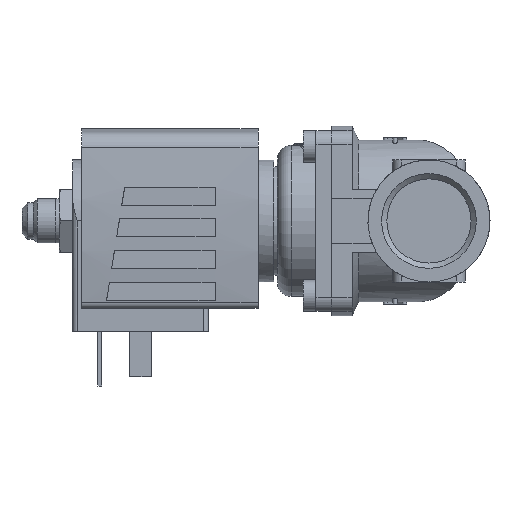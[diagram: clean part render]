
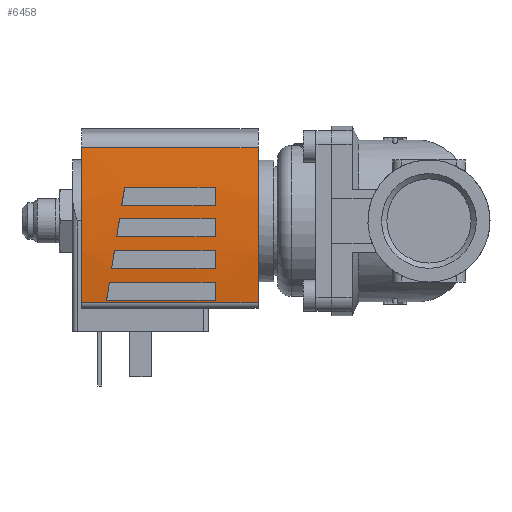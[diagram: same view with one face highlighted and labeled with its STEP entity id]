
A CAD part, left-side view. The second image highlights one B-rep face of the part: STEP entity #6458.
In plain terms, the highlighted cylindrical face has radius 130 mm (diameter 260 mm), a partial arc.
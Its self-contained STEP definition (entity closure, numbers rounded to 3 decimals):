
#160=ELLIPSE('',#7007,131.653,130.);
#161=ELLIPSE('',#7009,131.653,130.);
#162=ELLIPSE('',#7012,131.653,130.);
#163=ELLIPSE('',#7014,131.653,130.);
#715=LINE('',#10153,#1165);
#717=LINE('',#10173,#1167);
#718=LINE('',#10177,#1168);
#719=LINE('',#10178,#1169);
#720=LINE('',#10183,#1170);
#721=LINE('',#10188,#1171);
#722=LINE('',#10192,#1172);
#723=LINE('',#10196,#1173);
#724=LINE('',#10200,#1174);
#725=LINE('',#10204,#1175);
#1165=VECTOR('',#8332,1000.);
#1167=VECTOR('',#8354,1000.);
#1168=VECTOR('',#8357,1000.);
#1169=VECTOR('',#8358,1000.);
#1170=VECTOR('',#8361,1000.);
#1171=VECTOR('',#8366,1000.);
#1172=VECTOR('',#8369,1000.);
#1173=VECTOR('',#8372,1000.);
#1174=VECTOR('',#8375,1000.);
#1175=VECTOR('',#8378,1000.);
#2423=ORIENTED_EDGE('',*,*,#3411,.F.);
#2424=ORIENTED_EDGE('',*,*,#3412,.F.);
#2425=ORIENTED_EDGE('',*,*,#3413,.F.);
#2426=ORIENTED_EDGE('',*,*,#3414,.F.);
#2427=ORIENTED_EDGE('',*,*,#3415,.F.);
#2428=ORIENTED_EDGE('',*,*,#3416,.F.);
#2429=ORIENTED_EDGE('',*,*,#3417,.F.);
#2430=ORIENTED_EDGE('',*,*,#3418,.F.);
#2431=ORIENTED_EDGE('',*,*,#3419,.T.);
#2432=ORIENTED_EDGE('',*,*,#3420,.F.);
#2433=ORIENTED_EDGE('',*,*,#3405,.F.);
#2434=ORIENTED_EDGE('',*,*,#3402,.T.);
#2435=ORIENTED_EDGE('',*,*,#3421,.F.);
#2436=ORIENTED_EDGE('',*,*,#3422,.F.);
#2437=ORIENTED_EDGE('',*,*,#3423,.F.);
#2438=ORIENTED_EDGE('',*,*,#3424,.F.);
#2439=ORIENTED_EDGE('',*,*,#3425,.F.);
#2440=ORIENTED_EDGE('',*,*,#3426,.F.);
#2441=ORIENTED_EDGE('',*,*,#3427,.F.);
#2442=ORIENTED_EDGE('',*,*,#3428,.F.);
#3402=EDGE_CURVE('',#3984,#3983,#715,.T.);
#3405=EDGE_CURVE('',#3984,#3986,#4263,.T.);
#3411=EDGE_CURVE('',#3990,#3991,#160,.T.);
#3412=EDGE_CURVE('',#3992,#3990,#717,.F.);
#3413=EDGE_CURVE('',#3993,#3992,#4268,.T.);
#3414=EDGE_CURVE('',#3991,#3993,#718,.T.);
#3415=EDGE_CURVE('',#3994,#3995,#719,.T.);
#3416=EDGE_CURVE('',#3996,#3994,#161,.T.);
#3417=EDGE_CURVE('',#3997,#3996,#720,.F.);
#3418=EDGE_CURVE('',#3995,#3997,#4269,.T.);
#3419=EDGE_CURVE('',#3983,#3998,#4270,.T.);
#3420=EDGE_CURVE('',#3986,#3998,#721,.T.);
#3421=EDGE_CURVE('',#3999,#4000,#162,.T.);
#3422=EDGE_CURVE('',#4001,#3999,#722,.F.);
#3423=EDGE_CURVE('',#4002,#4001,#4271,.T.);
#3424=EDGE_CURVE('',#4000,#4002,#723,.T.);
#3425=EDGE_CURVE('',#4003,#4004,#163,.T.);
#3426=EDGE_CURVE('',#4005,#4003,#724,.F.);
#3427=EDGE_CURVE('',#4006,#4005,#4272,.T.);
#3428=EDGE_CURVE('',#4004,#4006,#725,.T.);
#3983=VERTEX_POINT('',#10152);
#3984=VERTEX_POINT('',#10154);
#3986=VERTEX_POINT('',#10160);
#3990=VERTEX_POINT('',#10171);
#3991=VERTEX_POINT('',#10172);
#3992=VERTEX_POINT('',#10174);
#3993=VERTEX_POINT('',#10176);
#3994=VERTEX_POINT('',#10179);
#3995=VERTEX_POINT('',#10180);
#3996=VERTEX_POINT('',#10182);
#3997=VERTEX_POINT('',#10184);
#3998=VERTEX_POINT('',#10187);
#3999=VERTEX_POINT('',#10190);
#4000=VERTEX_POINT('',#10191);
#4001=VERTEX_POINT('',#10193);
#4002=VERTEX_POINT('',#10195);
#4003=VERTEX_POINT('',#10198);
#4004=VERTEX_POINT('',#10199);
#4005=VERTEX_POINT('',#10201);
#4006=VERTEX_POINT('',#10203);
#4263=CIRCLE('',#7001,130.);
#4268=CIRCLE('',#7008,130.);
#4269=CIRCLE('',#7010,130.);
#4270=CIRCLE('',#7011,130.);
#4271=CIRCLE('',#7013,130.);
#4272=CIRCLE('',#7015,130.);
#4567=EDGE_LOOP('',(#2423,#2424,#2425,#2426));
#4568=EDGE_LOOP('',(#2427,#2428,#2429,#2430));
#4569=EDGE_LOOP('',(#2431,#2432,#2433,#2434));
#4570=EDGE_LOOP('',(#2435,#2436,#2437,#2438));
#4571=EDGE_LOOP('',(#2439,#2440,#2441,#2442));
#4947=FACE_BOUND('',#4567,.T.);
#4948=FACE_BOUND('',#4568,.T.);
#4949=FACE_BOUND('',#4569,.T.);
#4950=FACE_BOUND('',#4570,.T.);
#4951=FACE_BOUND('',#4571,.T.);
#5128=CYLINDRICAL_SURFACE('',#7006,130.);
#6458=ADVANCED_FACE('',(#4947,#4948,#4949,#4950,#4951),#5128,.T.);
#7001=AXIS2_PLACEMENT_3D('',#10159,#8339,#8340);
#7006=AXIS2_PLACEMENT_3D('',#10169,#8350,#8351);
#7007=AXIS2_PLACEMENT_3D('',#10170,#8352,#8353);
#7008=AXIS2_PLACEMENT_3D('',#10175,#8355,#8356);
#7009=AXIS2_PLACEMENT_3D('',#10181,#8359,#8360);
#7010=AXIS2_PLACEMENT_3D('',#10185,#8362,#8363);
#7011=AXIS2_PLACEMENT_3D('',#10186,#8364,#8365);
#7012=AXIS2_PLACEMENT_3D('',#10189,#8367,#8368);
#7013=AXIS2_PLACEMENT_3D('',#10194,#8370,#8371);
#7014=AXIS2_PLACEMENT_3D('',#10197,#8373,#8374);
#7015=AXIS2_PLACEMENT_3D('',#10202,#8376,#8377);
#8332=DIRECTION('',(0.,-1.,0.));
#8339=DIRECTION('',(0.,1.,0.));
#8340=DIRECTION('',(1.,0.,0.));
#8350=DIRECTION('',(0.,-1.,0.));
#8351=DIRECTION('',(0.,0.,-1.));
#8352=DIRECTION('',(-0.158,-0.987,0.));
#8353=DIRECTION('',(0.987,-0.158,0.));
#8354=DIRECTION('',(0.,-1.,0.));
#8355=DIRECTION('',(0.,1.,0.));
#8356=DIRECTION('',(0.,0.,1.));
#8357=DIRECTION('',(0.,-1.,0.));
#8358=DIRECTION('',(0.,-1.,0.));
#8359=DIRECTION('',(-0.158,-0.987,0.));
#8360=DIRECTION('',(0.987,-0.158,0.));
#8361=DIRECTION('',(0.,-1.,0.));
#8362=DIRECTION('',(0.,1.,0.));
#8363=DIRECTION('',(0.,0.,1.));
#8364=DIRECTION('',(0.,1.,0.));
#8365=DIRECTION('',(1.,0.,0.));
#8366=DIRECTION('',(0.,-1.,0.));
#8367=DIRECTION('',(-0.158,-0.987,0.));
#8368=DIRECTION('',(0.987,-0.158,0.));
#8369=DIRECTION('',(0.,-1.,0.));
#8370=DIRECTION('',(0.,1.,0.));
#8371=DIRECTION('',(0.,0.,1.));
#8372=DIRECTION('',(0.,-1.,0.));
#8373=DIRECTION('',(-0.158,-0.987,0.));
#8374=DIRECTION('',(0.987,-0.158,0.));
#8375=DIRECTION('',(0.,-1.,0.));
#8376=DIRECTION('',(0.,1.,0.));
#8377=DIRECTION('',(0.,0.,1.));
#8378=DIRECTION('',(0.,-1.,0.));
#10152=CARTESIAN_POINT('',(-18.071,-26.,14.738));
#10153=CARTESIAN_POINT('',(-18.071,13.,14.738));
#10154=CARTESIAN_POINT('',(-18.071,13.,14.738));
#10159=CARTESIAN_POINT('',(0.,13.,-114.));
#10160=CARTESIAN_POINT('',(16.195,13.,14.987));
#10169=CARTESIAN_POINT('',(0.,13.,-114.));
#10170=CARTESIAN_POINT('',(0.,4.7,-114.));
#10171=CARTESIAN_POINT('',(0.5,4.62,15.999));
#10172=CARTESIAN_POINT('',(-3.5,5.26,15.953));
#10173=CARTESIAN_POINT('',(0.5,13.,15.999));
#10174=CARTESIAN_POINT('',(0.5,-16.5,15.999));
#10175=CARTESIAN_POINT('',(0.,-16.5,-114.));
#10176=CARTESIAN_POINT('',(-3.5,-16.5,15.953));
#10177=CARTESIAN_POINT('',(-3.5,13.,15.953));
#10178=CARTESIAN_POINT('',(-17.5,13.,14.817));
#10179=CARTESIAN_POINT('',(-17.5,7.5,14.817));
#10180=CARTESIAN_POINT('',(-17.5,-16.5,14.817));
#10181=CARTESIAN_POINT('',(0.,4.7,-114.));
#10182=CARTESIAN_POINT('',(-13.5,6.86,15.297));
#10183=CARTESIAN_POINT('',(-13.5,13.,15.297));
#10184=CARTESIAN_POINT('',(-13.5,-16.5,15.297));
#10185=CARTESIAN_POINT('',(0.,-16.5,-114.));
#10186=CARTESIAN_POINT('',(0.,-26.,-114.));
#10187=CARTESIAN_POINT('',(16.195,-26.,14.987));
#10188=CARTESIAN_POINT('',(16.195,13.,14.987));
#10189=CARTESIAN_POINT('',(0.,4.7,-114.));
#10190=CARTESIAN_POINT('',(-6.5,5.74,15.837));
#10191=CARTESIAN_POINT('',(-10.5,6.38,15.575));
#10192=CARTESIAN_POINT('',(-6.5,13.,15.837));
#10193=CARTESIAN_POINT('',(-6.5,-16.5,15.837));
#10194=CARTESIAN_POINT('',(0.,-16.5,-114.));
#10195=CARTESIAN_POINT('',(-10.5,-16.5,15.575));
#10196=CARTESIAN_POINT('',(-10.5,13.,15.575));
#10197=CARTESIAN_POINT('',(0.,4.7,-114.));
#10198=CARTESIAN_POINT('',(7.5,3.5,15.783));
#10199=CARTESIAN_POINT('',(3.5,4.14,15.953));
#10200=CARTESIAN_POINT('',(7.5,13.,15.783));
#10201=CARTESIAN_POINT('',(7.5,-16.5,15.783));
#10202=CARTESIAN_POINT('',(0.,-16.5,-114.));
#10203=CARTESIAN_POINT('',(3.5,-16.5,15.953));
#10204=CARTESIAN_POINT('',(3.5,13.,15.953));
